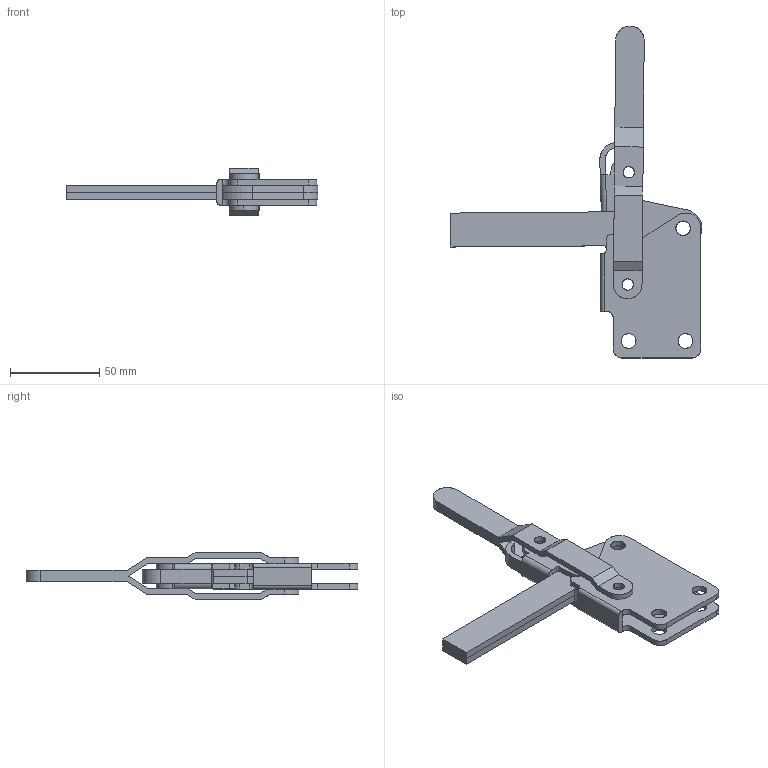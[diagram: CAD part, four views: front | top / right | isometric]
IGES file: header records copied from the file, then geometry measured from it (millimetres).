
Start section: SolidWorks IGES file using analytic representation for surfaces
Global section: file name: D:\GH Files\GH-SW-FILES\GH1\GH-12270\12280\GH-12280.IGS; native system: SolidWorks 2006 by SolidWorks Corporation; preprocessor: SolidWorks 2006 by SolidWorks Corporation; author: Administrator; date: 060825.131418; units: millimetre
Bounding box: 140.87 x 185.78 x 26.5 mm (x, y, z)
Surface area: 46695 mm2 (no closed solid volume)
Topology: 0 solids, 0 shells, 166 faces, 2922 edges, 2922 vertices
Faces by surface type: revolution 88, bspline 78
